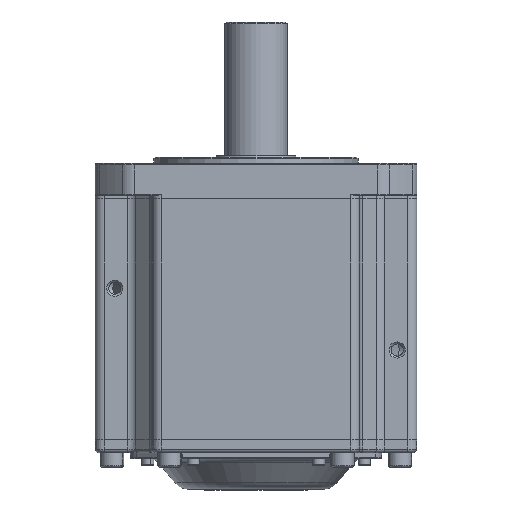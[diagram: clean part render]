
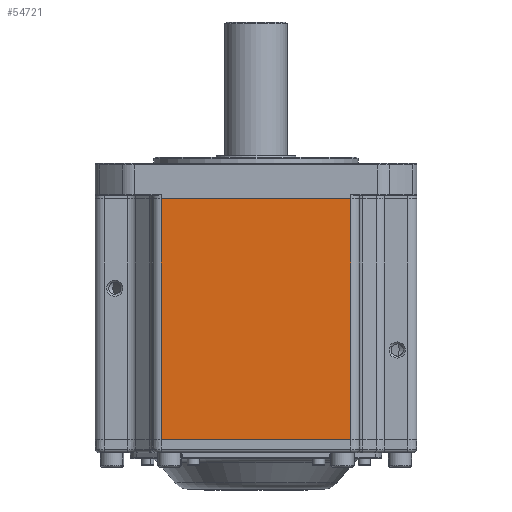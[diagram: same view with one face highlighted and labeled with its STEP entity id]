
A CAD part, front view. The second image highlights one B-rep face of the part: STEP entity #54721.
In plain terms, the highlighted planar face has unit normal (0, -1, 0).
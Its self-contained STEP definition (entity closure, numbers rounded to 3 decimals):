
#712 = EDGE_CURVE ( 'NONE', #55510, #61026, #35908, .T. ) ;
#1532 = CARTESIAN_POINT ( 'NONE',  ( -154.318, -89.007, -31.273 ) ) ;
#2667 = EDGE_LOOP ( 'NONE', ( #18014, #47326, #57260, #20664 ) ) ;
#4639 = LINE ( 'NONE', #14817, #59502 ) ;
#9634 = CARTESIAN_POINT ( 'NONE',  ( 58.026, -89.007, -896.673 ) ) ;
#11869 = VECTOR ( 'NONE', #60495, 1000. ) ;
#12696 = CARTESIAN_POINT ( 'NONE',  ( 53.026, -89.007, -896.673 ) ) ;
#13453 = VERTEX_POINT ( 'NONE', #30863 ) ;
#13555 = DIRECTION ( 'NONE',  ( 0., 1., 0. ) ) ;
#14817 = CARTESIAN_POINT ( 'NONE',  ( -52.974, -89.007, -896.673 ) ) ;
#15162 = LINE ( 'NONE', #12696, #30563 ) ;
#16519 = DIRECTION ( 'NONE',  ( 1., 0., 0. ) ) ;
#18014 = ORIENTED_EDGE ( 'NONE', *, *, #20529, .T. ) ;
#18590 = CARTESIAN_POINT ( 'NONE',  ( 53.026, -89.007, -31.273 ) ) ;
#20529 = EDGE_CURVE ( 'NONE', #13453, #55510, #4639, .T. ) ;
#20664 = ORIENTED_EDGE ( 'NONE', *, *, #56199, .T. ) ;
#26039 = FACE_OUTER_BOUND ( 'NONE', #2667, .T. ) ;
#27583 = DIRECTION ( 'NONE',  ( 0., 0., 1. ) ) ;
#30563 = VECTOR ( 'NONE', #27583, 1000. ) ;
#30863 = CARTESIAN_POINT ( 'NONE',  ( -52.974, -89.007, 103.327 ) ) ;
#35168 = DIRECTION ( 'NONE',  ( 0., 0., -1. ) ) ;
#35908 = LINE ( 'NONE', #1532, #54363 ) ;
#38312 = VERTEX_POINT ( 'NONE', #60527 ) ;
#44265 = AXIS2_PLACEMENT_3D ( 'NONE', #9634, #13555, #35168 ) ;
#46314 = EDGE_CURVE ( 'NONE', #61026, #38312, #15162, .T. ) ;
#46511 = CARTESIAN_POINT ( 'NONE',  ( -52.974, -89.007, -31.273 ) ) ;
#47326 = ORIENTED_EDGE ( 'NONE', *, *, #712, .T. ) ;
#53874 = DIRECTION ( 'NONE',  ( 0., 0., -1. ) ) ;
#54363 = VECTOR ( 'NONE', #16519, 1000. ) ;
#54721 = ADVANCED_FACE ( 'NONE', ( #26039 ), #63200, .F. ) ;
#55510 = VERTEX_POINT ( 'NONE', #46511 ) ;
#55755 = CARTESIAN_POINT ( 'NONE',  ( 58.026, -89.007, 103.327 ) ) ;
#56199 = EDGE_CURVE ( 'NONE', #38312, #13453, #62115, .T. ) ;
#57260 = ORIENTED_EDGE ( 'NONE', *, *, #46314, .T. ) ;
#59502 = VECTOR ( 'NONE', #53874, 1000. ) ;
#60495 = DIRECTION ( 'NONE',  ( -1., 0., 0. ) ) ;
#60527 = CARTESIAN_POINT ( 'NONE',  ( 53.026, -89.007, 103.327 ) ) ;
#61026 = VERTEX_POINT ( 'NONE', #18590 ) ;
#62115 = LINE ( 'NONE', #55755, #11869 ) ;
#63200 = PLANE ( 'NONE',  #44265 ) ;
